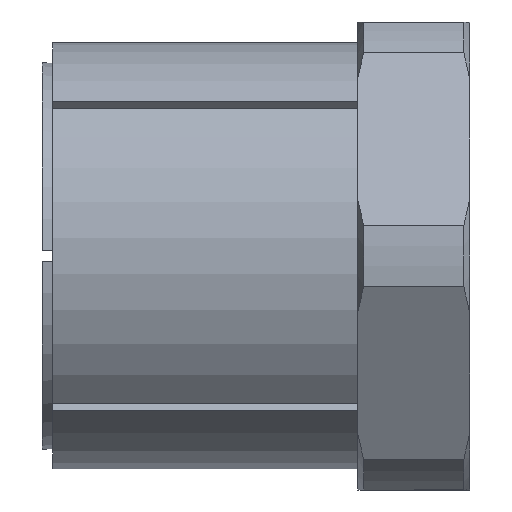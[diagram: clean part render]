
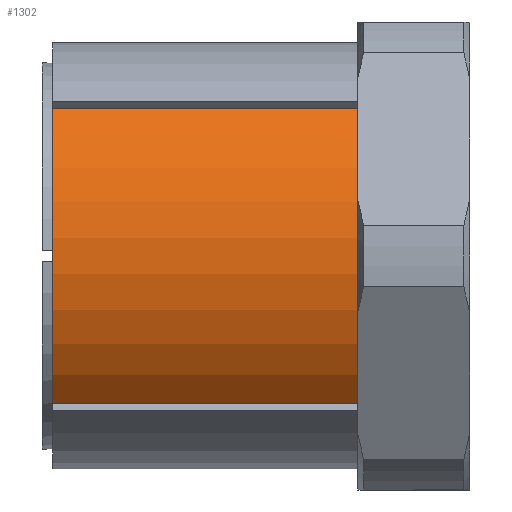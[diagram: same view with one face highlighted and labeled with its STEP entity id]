
A CAD part, front view. The second image highlights one B-rep face of the part: STEP entity #1302.
In plain terms, the highlighted cylindrical face has radius 21 mm (diameter 42 mm), a partial arc.
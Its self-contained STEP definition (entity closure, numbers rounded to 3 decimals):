
#27 = AXIS2_PLACEMENT_3D ( 'NONE', #1807, #1806, #2114 ) ;
#166 = AXIS2_PLACEMENT_3D ( 'NONE', #2059, #2057, #2056 ) ;
#175 = AXIS2_PLACEMENT_3D ( 'NONE', #2089, #2088, #2087 ) ;
#183 = EDGE_CURVE ( 'NONE', #2255, #2231, #889, .T. ) ;
#193 = EDGE_CURVE ( 'NONE', #2273, #2231, #659, .T. ) ;
#194 = EDGE_CURVE ( 'NONE', #2232, #2273, #655, .T. ) ;
#195 = EDGE_CURVE ( 'NONE', #2255, #2232, #661, .T. ) ;
#499 = CARTESIAN_POINT ( 'NONE',  ( 30., -15.199, 14.491 ) ) ;
#507 = CARTESIAN_POINT ( 'NONE',  ( 0., -15.199, -14.491 ) ) ;
#519 = CARTESIAN_POINT ( 'NONE',  ( 30., -15.199, -14.491 ) ) ;
#520 = CARTESIAN_POINT ( 'NONE',  ( 0., -15.199, 14.491 ) ) ;
#655 = CIRCLE ( 'NONE', #166, 21. ) ;
#659 = LINE ( 'NONE', #2066, #664 ) ;
#661 = LINE ( 'NONE', #2055, #663 ) ;
#663 = VECTOR ( 'NONE', #2054, 1000. ) ;
#664 = VECTOR ( 'NONE', #2060, 1000. ) ;
#769 = EDGE_LOOP ( 'NONE', ( #2624, #2625, #2626, #2627 ) ) ;
#889 = CIRCLE ( 'NONE', #175, 21. ) ;
#913 = CYLINDRICAL_SURFACE ( 'NONE', #27, 21. ) ;
#923 = FACE_OUTER_BOUND ( 'NONE', #769, .T. ) ;
#1302 = ADVANCED_FACE ( 'NONE', ( #923 ), #913, .T. ) ;
#1806 = DIRECTION ( 'NONE',  ( -1., 0., 0. ) ) ;
#1807 = CARTESIAN_POINT ( 'NONE',  ( 0., 0., 0. ) ) ;
#2054 = DIRECTION ( 'NONE',  ( 1., 0., 0. ) ) ;
#2055 = CARTESIAN_POINT ( 'NONE',  ( 0., -15.199, -14.491 ) ) ;
#2056 = DIRECTION ( 'NONE',  ( 0., 0., 1. ) ) ;
#2057 = DIRECTION ( 'NONE',  ( -1., 0., 0. ) ) ;
#2059 = CARTESIAN_POINT ( 'NONE',  ( 30., 0., 0. ) ) ;
#2060 = DIRECTION ( 'NONE',  ( -1., 0., 0. ) ) ;
#2066 = CARTESIAN_POINT ( 'NONE',  ( 0., -15.199, 14.491 ) ) ;
#2087 = DIRECTION ( 'NONE',  ( 0., 0., 1. ) ) ;
#2088 = DIRECTION ( 'NONE',  ( -1., 0., 0. ) ) ;
#2089 = CARTESIAN_POINT ( 'NONE',  ( 0., 0., 0. ) ) ;
#2114 = DIRECTION ( 'NONE',  ( 0., 0., 1. ) ) ;
#2231 = VERTEX_POINT ( 'NONE', #520 ) ;
#2232 = VERTEX_POINT ( 'NONE', #519 ) ;
#2255 = VERTEX_POINT ( 'NONE', #507 ) ;
#2273 = VERTEX_POINT ( 'NONE', #499 ) ;
#2624 = ORIENTED_EDGE ( 'NONE', *, *, #194, .T. ) ;
#2625 = ORIENTED_EDGE ( 'NONE', *, *, #193, .T. ) ;
#2626 = ORIENTED_EDGE ( 'NONE', *, *, #183, .F. ) ;
#2627 = ORIENTED_EDGE ( 'NONE', *, *, #195, .T. ) ;
